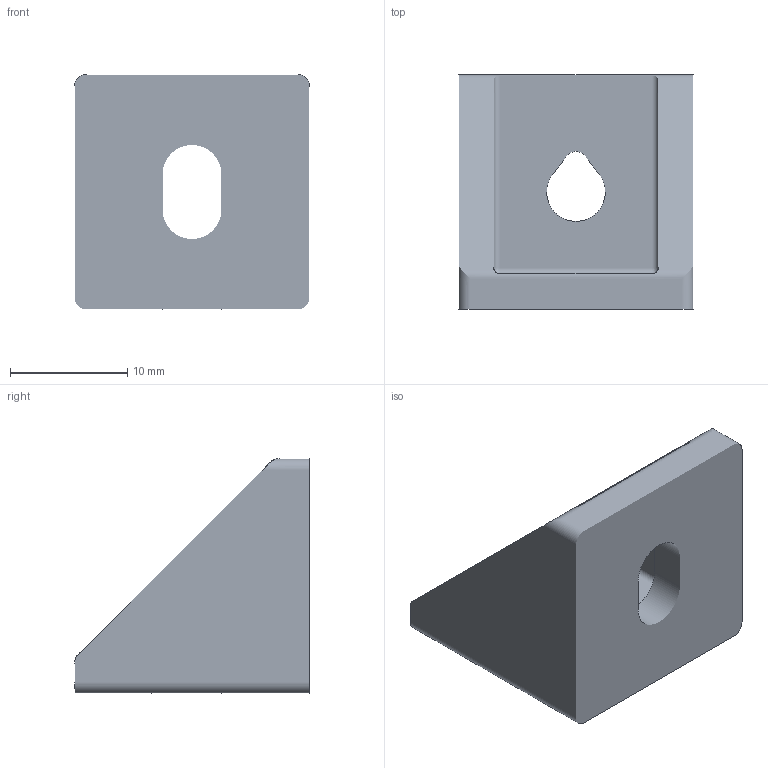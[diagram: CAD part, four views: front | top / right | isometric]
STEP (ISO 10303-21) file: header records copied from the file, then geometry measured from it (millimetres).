
FILE_DESCRIPTION(/* description */ ('STEP AP242 Edition 2','CAx-IF Rec.Pracs.---Representation and Presentation of Product Manufacturing Information (PMI)---4.0---2014-10-13','CAx-IF Rec.Pracs.---3D Tessellated Geometry---0.4---2014-09-14','2;1','CAx-IF Rec.Pracs.---User Defined Attributes---1.5---2016-08-15'),/* implementation_level */ '2;1');
FILE_NAME(/* name */ 'Mounting Bracket',/* time_stamp */ '2025-11-29T19:52:45Z',/* author */ (''),/* organization */ (''),/* preprocessor_version */ 'ST-DEVELOPER v20',/* originating_system */ 'ONSHAPE BY PTC INC, 1.207',/* authorisation */ ' ');
FILE_SCHEMA (('AP242_MANAGED_MODEL_BASED_3D_ENGINEERING_MIM_LF { 1 0 10303 442 3 1 4 }'));
Length unit declared in the file: metre
Products named in the file (1): Part 1
Bounding box: 20 x 20 x 20 mm (x, y, z)
Surface area: 2301.7 mm2 (no closed solid volume)
Topology: 0 solids, 1 shells, 1 faces, 0 edges, 0 vertices
Faces by surface type: other 1
Entity records: 38 total; most frequent: STYLED_ITEM 2, PRESENTATION_STYLE_ASSIGNMENT 2, SURFACE_STYLE_USAGE 2, SURFACE_SIDE_STYLE 2, SURFACE_STYLE_FILL_AREA 2, FILL_AREA_STYLE 2, FILL_AREA_STYLE_COLOUR 2, DIRECTION 2
